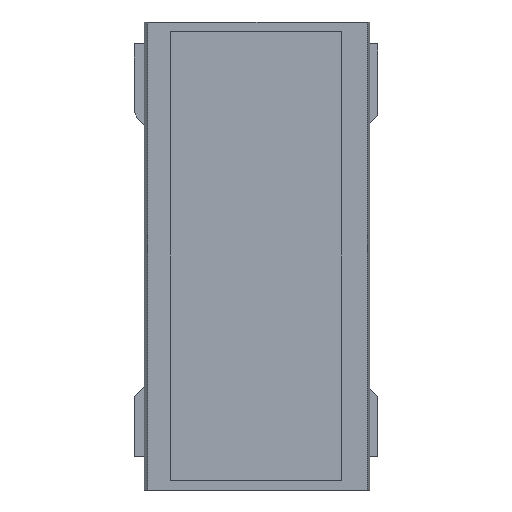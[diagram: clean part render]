
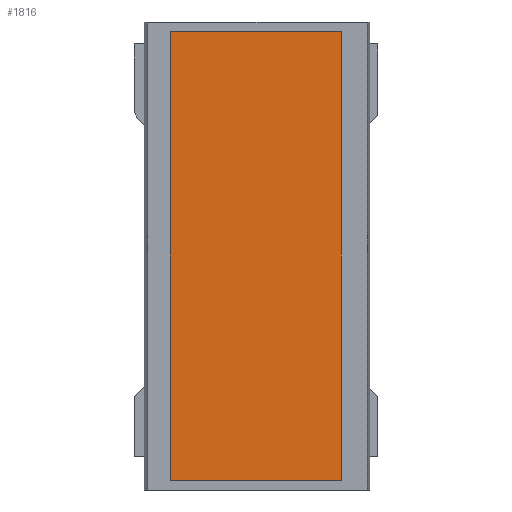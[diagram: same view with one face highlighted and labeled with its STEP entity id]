
A CAD part, left-side view. The second image highlights one B-rep face of the part: STEP entity #1816.
In plain terms, the highlighted planar face has unit normal (-1, 0, 0) as drawn and (0, 1, 0) by its records, which use the part's own axes.
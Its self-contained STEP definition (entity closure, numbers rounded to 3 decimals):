
#169=FACE_OUTER_BOUND('',#277,.T.);
#277=EDGE_LOOP('',(#1520,#1521,#1522,#1523));
#456=LINE('',#4496,#670);
#460=LINE('',#4503,#674);
#463=LINE('',#4509,#677);
#465=LINE('',#4512,#679);
#670=VECTOR('',#2380,10.);
#674=VECTOR('',#2386,10.);
#677=VECTOR('',#2391,10.);
#679=VECTOR('',#2395,10.);
#858=VERTEX_POINT('',#4493);
#859=VERTEX_POINT('',#4495);
#861=VERTEX_POINT('',#4501);
#863=VERTEX_POINT('',#4507);
#1084=EDGE_CURVE('',#858,#859,#456,.T.);
#1088=EDGE_CURVE('',#861,#858,#460,.T.);
#1091=EDGE_CURVE('',#863,#861,#463,.T.);
#1093=EDGE_CURVE('',#859,#863,#465,.T.);
#1520=ORIENTED_EDGE('',*,*,#1093,.F.);
#1521=ORIENTED_EDGE('',*,*,#1084,.F.);
#1522=ORIENTED_EDGE('',*,*,#1088,.F.);
#1523=ORIENTED_EDGE('',*,*,#1091,.F.);
#1719=PLANE('',#2015);
#1816=ADVANCED_FACE('',(#169),#1719,.F.);
#2015=AXIS2_PLACEMENT_3D('',#4513,#2396,#2397);
#2380=DIRECTION('',(1.,0.,0.));
#2386=DIRECTION('',(0.,0.,-1.));
#2391=DIRECTION('',(-1.,0.,0.));
#2395=DIRECTION('',(0.,0.,1.));
#2396=DIRECTION('center_axis',(0.,-1.,0.));
#2397=DIRECTION('ref_axis',(0.,0.,-1.));
#4493=CARTESIAN_POINT('',(-56.,42.387,-147.55));
#4495=CARTESIAN_POINT('',(56.6,42.387,-147.55));
#4496=CARTESIAN_POINT('',(56.6,42.387,-147.55));
#4501=CARTESIAN_POINT('',(-56.,42.387,147.55));
#4503=CARTESIAN_POINT('',(-56.,42.387,-147.55));
#4507=CARTESIAN_POINT('',(56.6,42.387,147.55));
#4509=CARTESIAN_POINT('',(-56.,42.387,147.55));
#4512=CARTESIAN_POINT('',(56.6,42.387,147.55));
#4513=CARTESIAN_POINT('Origin',(0.3,42.387,1476.1));
